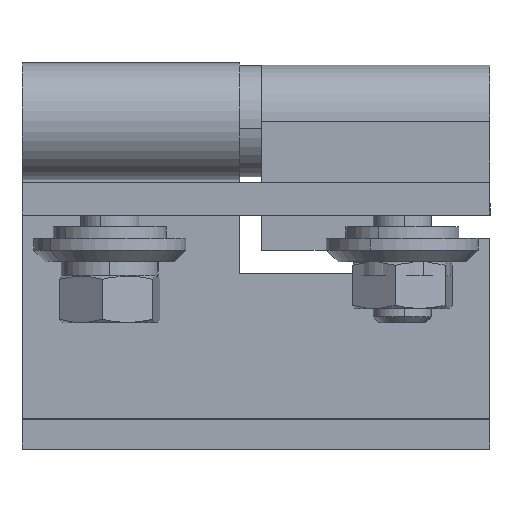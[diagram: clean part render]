
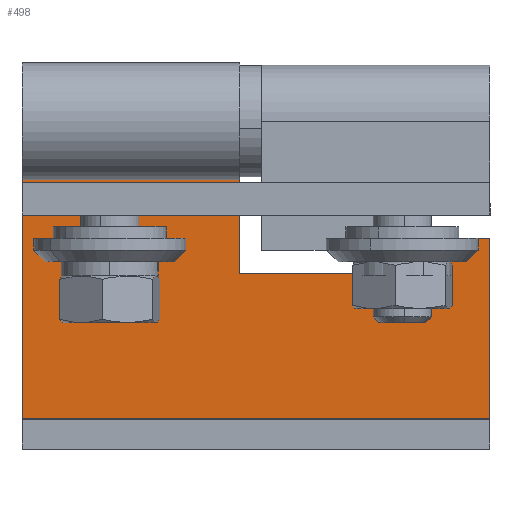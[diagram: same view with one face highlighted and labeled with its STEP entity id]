
A CAD part, left-side view. The second image highlights one B-rep face of the part: STEP entity #498.
In plain terms, the highlighted planar face has unit normal (-1, 0, 0) as drawn and (1, 0, 0) by its records, which use the part's own axes.
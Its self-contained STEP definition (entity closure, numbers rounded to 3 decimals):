
#477 = ORIENTED_EDGE ( 'NONE', *, *, #483, .T. ) ;
#478 = VERTEX_POINT ( 'NONE', #3436 ) ;
#481 = ORIENTED_EDGE ( 'NONE', *, *, #494, .T. ) ;
#483 = EDGE_CURVE ( 'NONE', #478, #489, #3429, .T. ) ;
#485 = EDGE_LOOP ( 'NONE', ( #477, #487, #481, #512, #508, #510, #503, #506 ) ) ;
#486 = EDGE_CURVE ( 'NONE', #489, #488, #3462, .T. ) ;
#487 = ORIENTED_EDGE ( 'NONE', *, *, #486, .T. ) ;
#488 = VERTEX_POINT ( 'NONE', #3458 ) ;
#489 = VERTEX_POINT ( 'NONE', #3457 ) ;
#493 = VERTEX_POINT ( 'NONE', #3451 ) ;
#494 = EDGE_CURVE ( 'NONE', #488, #493, #3500, .T. ) ;
#498 = ADVANCED_FACE ( 'NONE', ( #3496 ), #3481, .T. ) ;
#499 = EDGE_CURVE ( 'NONE', #509, #507, #3476, .T. ) ;
#502 = EDGE_CURVE ( 'NONE', #507, #478, #3527, .T. ) ;
#503 = ORIENTED_EDGE ( 'NONE', *, *, #499, .T. ) ;
#506 = ORIENTED_EDGE ( 'NONE', *, *, #502, .T. ) ;
#507 = VERTEX_POINT ( 'NONE', #3559 ) ;
#508 = ORIENTED_EDGE ( 'NONE', *, *, #637, .T. ) ;
#509 = VERTEX_POINT ( 'NONE', #3558 ) ;
#510 = ORIENTED_EDGE ( 'NONE', *, *, #511, .T. ) ;
#511 = EDGE_CURVE ( 'NONE', #635, #509, #3557, .T. ) ;
#512 = ORIENTED_EDGE ( 'NONE', *, *, #513, .F. ) ;
#513 = EDGE_CURVE ( 'NONE', #638, #493, #3553, .T. ) ;
#635 = VERTEX_POINT ( 'NONE', #4008 ) ;
#637 = EDGE_CURVE ( 'NONE', #638, #635, #4007, .T. ) ;
#638 = VERTEX_POINT ( 'NONE', #4003 ) ;
#3426 = DIRECTION ( 'NONE',  ( 0., 0., 1. ) ) ;
#3427 = VECTOR ( 'NONE', #3426, 1000. ) ;
#3428 = CARTESIAN_POINT ( 'NONE',  ( -2.5, -13., 40. ) ) ;
#3429 = LINE ( 'NONE', #3428, #3427 ) ;
#3436 = CARTESIAN_POINT ( 'NONE',  ( -2.5, -13., 6.5 ) ) ;
#3451 = CARTESIAN_POINT ( 'NONE',  ( -2.5, 0., 40. ) ) ;
#3457 = CARTESIAN_POINT ( 'NONE',  ( -2.5, -13., 21.4 ) ) ;
#3458 = CARTESIAN_POINT ( 'NONE',  ( -2.5, 0., 21.4 ) ) ;
#3459 = DIRECTION ( 'NONE',  ( 0., 1., 0. ) ) ;
#3460 = VECTOR ( 'NONE', #3459, 1000. ) ;
#3461 = CARTESIAN_POINT ( 'NONE',  ( -2.5, 0., 21.4 ) ) ;
#3462 = LINE ( 'NONE', #3461, #3460 ) ;
#3473 = DIRECTION ( 'NONE',  ( 0., 0., 1. ) ) ;
#3474 = VECTOR ( 'NONE', #3473, 1000. ) ;
#3475 = CARTESIAN_POINT ( 'NONE',  ( -2.5, -10., 40. ) ) ;
#3476 = LINE ( 'NONE', #3475, #3474 ) ;
#3477 = DIRECTION ( 'NONE',  ( 0., 1., 0. ) ) ;
#3478 = DIRECTION ( 'NONE',  ( 1., 0., 0. ) ) ;
#3479 = CARTESIAN_POINT ( 'NONE',  ( -2.5, 0., 40. ) ) ;
#3480 = AXIS2_PLACEMENT_3D ( 'NONE', #3479, #3478, #3477 ) ;
#3481 = PLANE ( 'NONE',  #3480 ) ;
#3496 = FACE_OUTER_BOUND ( 'NONE', #485, .T. ) ;
#3497 = DIRECTION ( 'NONE',  ( 0., 0., 1. ) ) ;
#3498 = VECTOR ( 'NONE', #3497, 1000. ) ;
#3499 = CARTESIAN_POINT ( 'NONE',  ( -2.5, 0., 40. ) ) ;
#3500 = LINE ( 'NONE', #3499, #3498 ) ;
#3524 = DIRECTION ( 'NONE',  ( 0., -1., 0. ) ) ;
#3525 = VECTOR ( 'NONE', #3524, 1000. ) ;
#3526 = CARTESIAN_POINT ( 'NONE',  ( -2.5, 0., 6.5 ) ) ;
#3527 = LINE ( 'NONE', #3526, #3525 ) ;
#3550 = DIRECTION ( 'NONE',  ( 0., 1., 0. ) ) ;
#3551 = VECTOR ( 'NONE', #3550, 1000. ) ;
#3552 = CARTESIAN_POINT ( 'NONE',  ( -2.5, -25.5, 40. ) ) ;
#3553 = LINE ( 'NONE', #3552, #3551 ) ;
#3554 = DIRECTION ( 'NONE',  ( 0., 1., 0. ) ) ;
#3555 = VECTOR ( 'NONE', #3554, 1000. ) ;
#3556 = CARTESIAN_POINT ( 'NONE',  ( -2.5, -25.4, 0. ) ) ;
#3557 = LINE ( 'NONE', #3556, #3555 ) ;
#3558 = CARTESIAN_POINT ( 'NONE',  ( -2.5, -10., 0. ) ) ;
#3559 = CARTESIAN_POINT ( 'NONE',  ( -2.5, -10., 6.5 ) ) ;
#4003 = CARTESIAN_POINT ( 'NONE',  ( -2.5, -25.4, 40. ) ) ;
#4004 = DIRECTION ( 'NONE',  ( 0., 0., -1. ) ) ;
#4005 = VECTOR ( 'NONE', #4004, 1000. ) ;
#4006 = CARTESIAN_POINT ( 'NONE',  ( -2.5, -25.4, 40. ) ) ;
#4007 = LINE ( 'NONE', #4006, #4005 ) ;
#4008 = CARTESIAN_POINT ( 'NONE',  ( -2.5, -25.4, 0. ) ) ;
